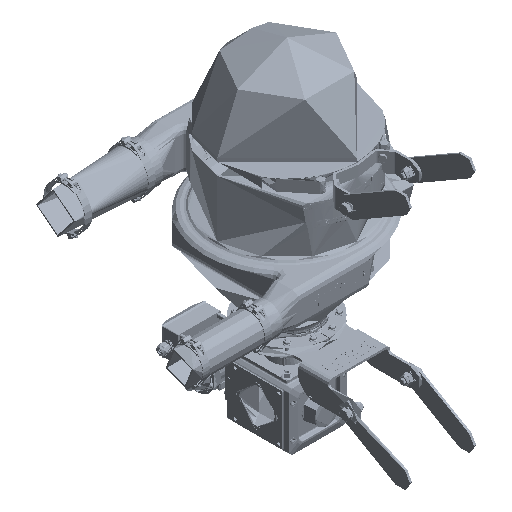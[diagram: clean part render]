
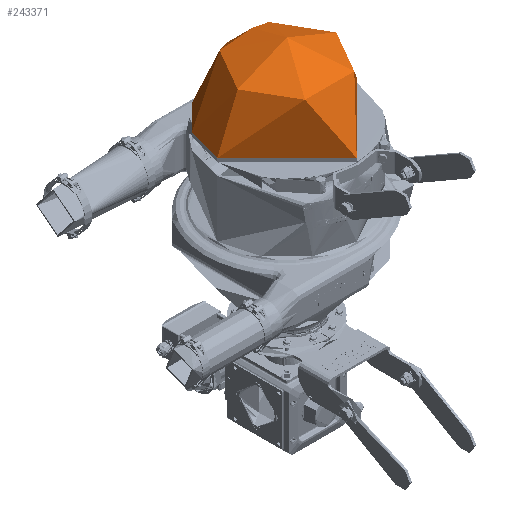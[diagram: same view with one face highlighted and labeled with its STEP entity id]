
A CAD part, isometric view. The second image highlights one B-rep face of the part: STEP entity #243371.
In plain terms, the highlighted spherical face has radius 198 mm.
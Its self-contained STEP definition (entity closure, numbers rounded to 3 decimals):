
#332=SPHERICAL_SURFACE('',#255804,198.);
#33245=FACE_OUTER_BOUND('',#47357,.T.);
#47357=EDGE_LOOP('',(#196814,#196815,#196816,#196817));
#90641=CIRCLE('',#254649,198.);
#90642=CIRCLE('',#254650,198.);
#90913=CIRCLE('',#255805,198.);
#106508=VERTEX_POINT('',#414228);
#106509=VERTEX_POINT('',#414230);
#109444=VERTEX_POINT('',#442854);
#135201=EDGE_CURVE('',#106508,#106509,#90641,.T.);
#135202=EDGE_CURVE('',#106509,#106508,#90642,.T.);
#139649=EDGE_CURVE('',#106509,#109444,#90913,.T.);
#196814=ORIENTED_EDGE('',*,*,#135202,.F.);
#196815=ORIENTED_EDGE('',*,*,#139649,.T.);
#196816=ORIENTED_EDGE('',*,*,#139649,.F.);
#196817=ORIENTED_EDGE('',*,*,#135201,.F.);
#243371=ADVANCED_FACE('',(#33245),#332,.T.);
#254649=AXIS2_PLACEMENT_3D('',#414231,#287388,#287389);
#254650=AXIS2_PLACEMENT_3D('',#414232,#287390,#287391);
#255804=AXIS2_PLACEMENT_3D('',#442853,#292154,#292155);
#255805=AXIS2_PLACEMENT_3D('',#442855,#292156,#292157);
#287388=DIRECTION('center_axis',(0.,0.,
-1.));
#287389=DIRECTION('ref_axis',(0.,-1.,0.));
#287390=DIRECTION('center_axis',(0.,0.,
-1.));
#287391=DIRECTION('ref_axis',(0.,-1.,0.));
#292154=DIRECTION('center_axis',(0.,0.,
-1.));
#292155=DIRECTION('ref_axis',(0.,-1.,0.));
#292156=DIRECTION('center_axis',(1.,0.,0.));
#292157=DIRECTION('ref_axis',(0.,1.,0.));
#414228=CARTESIAN_POINT('',(-198.,0.,646.));
#414230=CARTESIAN_POINT('',(0.,198.,646.));
#414231=CARTESIAN_POINT('Origin',(0.,0.,
646.));
#414232=CARTESIAN_POINT('Origin',(0.,0.,
646.));
#442853=CARTESIAN_POINT('Origin',(0.,0.,
646.));
#442854=CARTESIAN_POINT('',(0.,0.,
844.));
#442855=CARTESIAN_POINT('Origin',(0.,0.,
646.));
